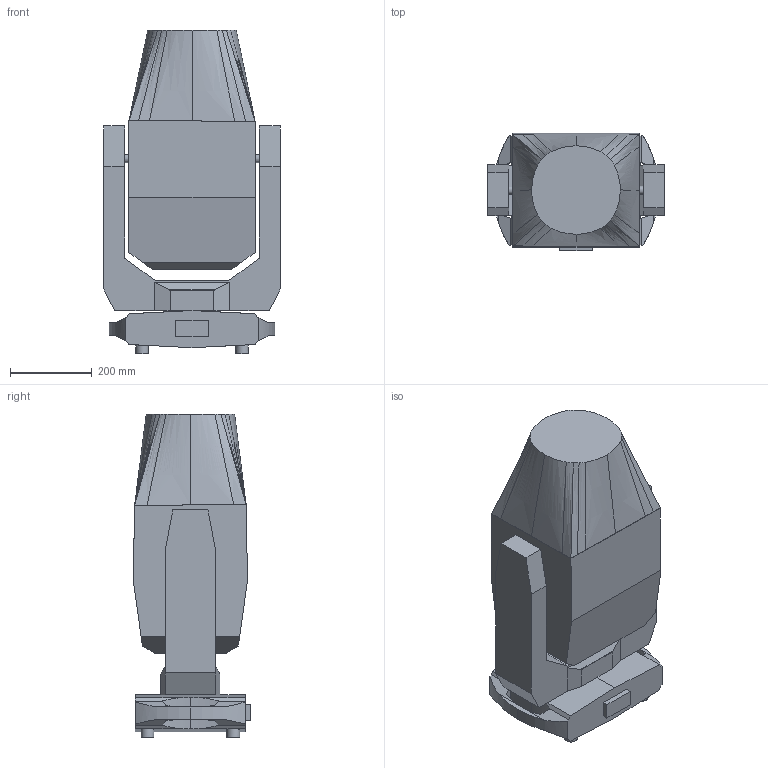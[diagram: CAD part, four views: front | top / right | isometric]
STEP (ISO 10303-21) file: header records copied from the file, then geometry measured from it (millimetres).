
FILE_DESCRIPTION(/* description */ (''),/* implementation_level */ '2;1');
FILE_NAME(/* name */ 'D:/dgooch/Documents/CADENG/PRO/Maverick Silens 2 Profile/0/3D/Maverick Silens 2 Profile v6.step',/* time_stamp */ '2019-09-06T08:48:41-04:00',/* author */ (''),/* organization */ (''),/* preprocessor_version */ 'ST-DEVELOPER v18',/* originating_system */ 'Autodesk Translation Framework v8.6.0.1094',/* authorisation */ '');
FILE_SCHEMA (('AUTOMOTIVE_DESIGN { 1 0 10303 214 3 1 1 }'));
Length unit declared in the file: millimetre
Products named in the file (3): Maverick Silens 2 Profile; Head; Base
Assembly tree (2 placements, depth 2):
  Maverick Silens 2 Profile
    Head
    Base
Bounding box: 432.79 x 286.77 x 791.5 mm (x, y, z)
Volume: 59098767.1 mm3; surface area: 1495333.6 mm2
Topology: 2 solids, 2 shells, 118 faces, 334 edges, 221 vertices
Faces by surface type: plane 76, bspline 24, cylinder 18
Full cylindrical faces by diameter (mm): 20 x2, 31 x4
Entity records: 5529 total; most frequent: CARTESIAN_POINT 2452, ORIENTED_EDGE 668, DIRECTION 556, EDGE_CURVE 334, LINE 238, VECTOR 238, VERTEX_POINT 221, AXIS2_PLACEMENT_3D 159
